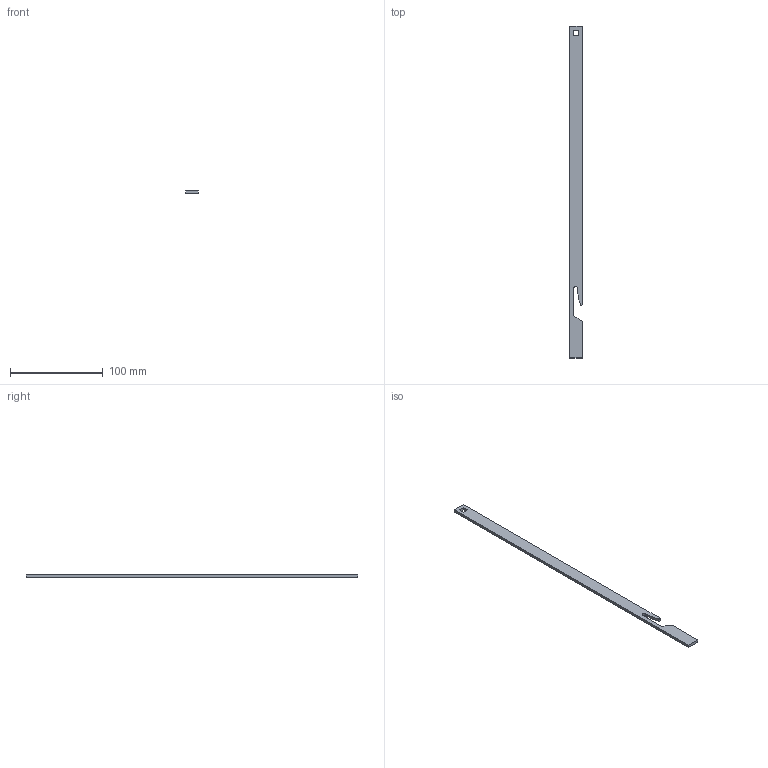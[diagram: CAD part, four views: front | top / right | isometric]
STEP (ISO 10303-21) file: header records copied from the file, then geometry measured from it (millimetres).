
FILE_DESCRIPTION (( 'STEP AP214' ), '1' );
FILE_NAME ('PK390-351.STEP', '2016-09-08T08:21:26', ( '' ), ( '' ), 'SwSTEP 2.0', 'SolidWorks 2015', '' );
FILE_SCHEMA (( 'AUTOMOTIVE_DESIGN' ));
Length unit declared in the file: millimetre
Products named in the file (1): PK390-351
Bounding box: 14 x 358.5 x 3 mm (x, y, z)
Volume: 14213.9 mm3; surface area: 11934.7 mm2
Topology: 1 solids, 1 shells, 17 faces, 45 edges, 30 vertices
Faces by surface type: plane 13, cylinder 4
Entity records: 565 total; most frequent: CARTESIAN_POINT 93, ORIENTED_EDGE 90, DIRECTION 89, EDGE_CURVE 45, VECTOR 37, LINE 37, VERTEX_POINT 30, AXIS2_PLACEMENT_3D 26
